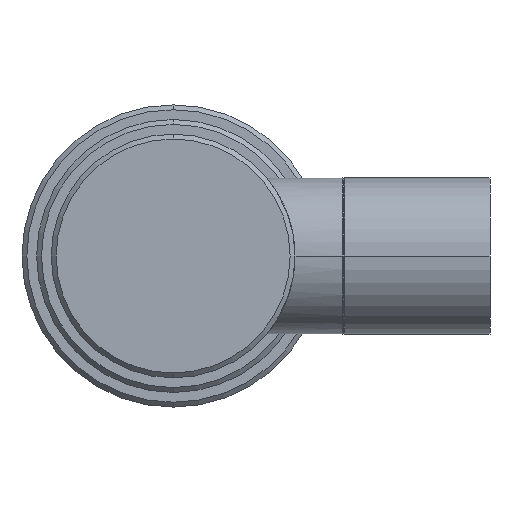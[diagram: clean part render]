
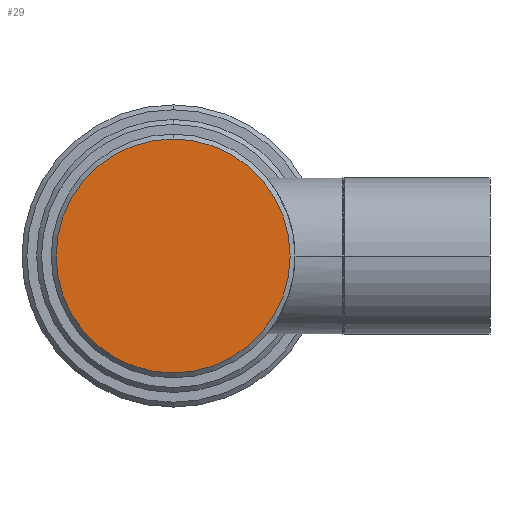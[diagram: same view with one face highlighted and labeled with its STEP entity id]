
A CAD part, left-side view. The second image highlights one B-rep face of the part: STEP entity #29.
In plain terms, the highlighted planar face has unit normal (-1, 0, 0).
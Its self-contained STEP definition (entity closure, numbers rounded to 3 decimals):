
#23 = CARTESIAN_POINT ( 'NONE',  ( 0., 0., -12. ) ) ;
#29 = ADVANCED_FACE ( 'NONE', ( #1375 ), #674, .F. ) ;
#97 = CARTESIAN_POINT ( 'NONE',  ( 0., 0., 12. ) ) ;
#122 = CARTESIAN_POINT ( 'NONE',  ( 0., 0., 0. ) ) ;
#169 = DIRECTION ( 'NONE',  ( 0., 0., 1. ) ) ;
#176 = AXIS2_PLACEMENT_3D ( 'NONE', #122, #237, #234 ) ;
#208 = EDGE_LOOP ( 'NONE', ( #309, #735 ) ) ;
#209 = AXIS2_PLACEMENT_3D ( 'NONE', #398, #288, #169 ) ;
#234 = DIRECTION ( 'NONE',  ( 0., 0., -1. ) ) ;
#237 = DIRECTION ( 'NONE',  ( 1., 0., 0. ) ) ;
#260 = CARTESIAN_POINT ( 'NONE',  ( 0., 0., 0. ) ) ;
#265 = EDGE_CURVE ( 'NONE', #1014, #792, #1255, .T. ) ;
#288 = DIRECTION ( 'NONE',  ( -1., 0., 0. ) ) ;
#309 = ORIENTED_EDGE ( 'NONE', *, *, #265, .T. ) ;
#372 = DIRECTION ( 'NONE',  ( 0., 0., 1. ) ) ;
#398 = CARTESIAN_POINT ( 'NONE',  ( 0., 0., 0. ) ) ;
#454 = AXIS2_PLACEMENT_3D ( 'NONE', #260, #1008, #372 ) ;
#674 = PLANE ( 'NONE',  #176 ) ;
#735 = ORIENTED_EDGE ( 'NONE', *, *, #1287, .T. ) ;
#792 = VERTEX_POINT ( 'NONE', #97 ) ;
#894 = CIRCLE ( 'NONE', #454, 12. ) ;
#1008 = DIRECTION ( 'NONE',  ( -1., 0., 0. ) ) ;
#1014 = VERTEX_POINT ( 'NONE', #23 ) ;
#1255 = CIRCLE ( 'NONE', #209, 12. ) ;
#1287 = EDGE_CURVE ( 'NONE', #792, #1014, #894, .T. ) ;
#1375 = FACE_OUTER_BOUND ( 'NONE', #208, .T. ) ;
